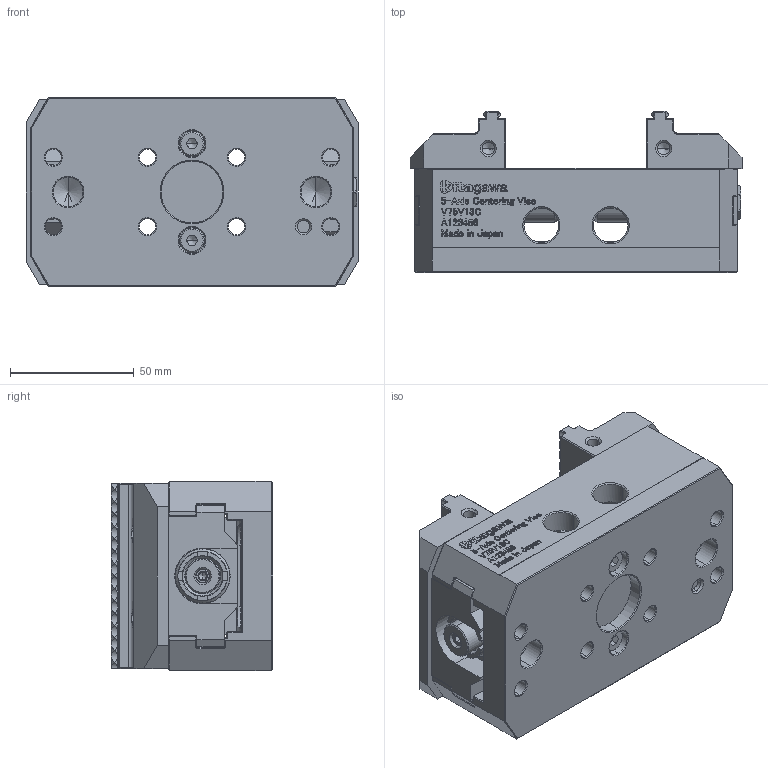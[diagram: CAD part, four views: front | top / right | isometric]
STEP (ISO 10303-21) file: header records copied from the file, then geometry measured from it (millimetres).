
FILE_DESCRIPTION (( 'STEP AP203' ), '1' );
FILE_NAME ('V75V13C_O.STEP', '2022-07-26T04:25:58', ( '' ), ( '' ), 'SwSTEP 2.0', 'SolidWorks 2020', '' );
FILE_SCHEMA (( 'CONFIG_CONTROL_DESIGN' ));
Length unit declared in the file: millimetre
Products named in the file (4): Part; 005AMA0042; 61M856676; V75V13C_O
Assembly tree (7 placements, depth 2):
  V75V13C_O
    61M856676  x2
    005AMA0042  x4
    Part
Bounding box: 134 x 65 x 76.5 mm (x, y, z)
Volume: 378432.5 mm3; surface area: 97735.5 mm2
Topology: 7 solids, 21 shells, 3093 faces, 8395 edges, 5429 vertices
Faces by surface type: plane 1776, bspline 562, cylinder 421, cone 324, torus 10
Entity records: 104186 total; most frequent: CARTESIAN_POINT 38236, ORIENTED_EDGE 14910, DIRECTION 11337, EDGE_CURVE 7455, VECTOR 5053, LINE 5053, VERTEX_POINT 4859, AXIS2_PLACEMENT_3D 3142
